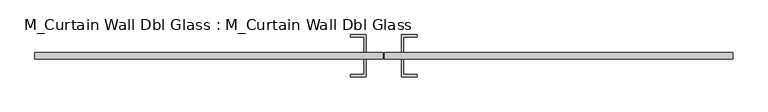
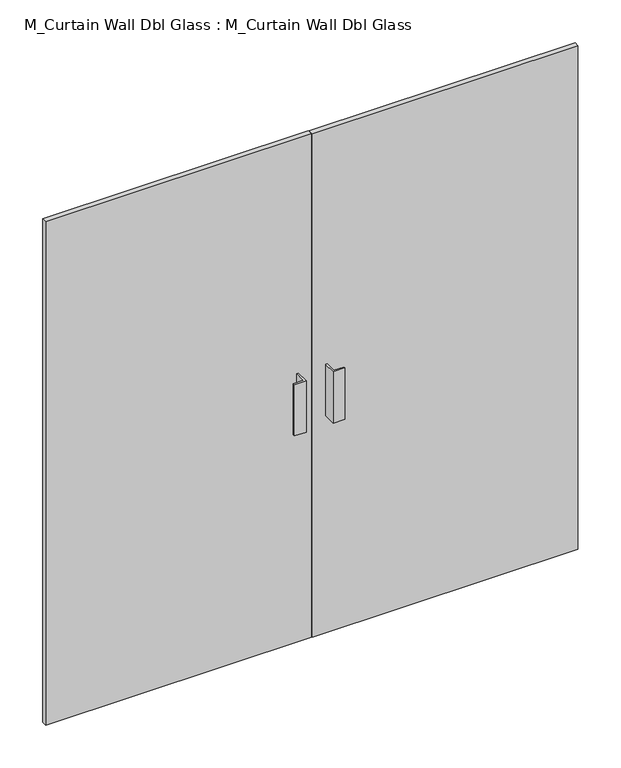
"""IFC4 building model written with IfcOpenShell, lengths in millimetres: plate geometry, M_Curtain Wall Dbl Glass : M_Curtain Wall Dbl Glass."""

from ifc_helpers import new_model, si_unit, frame, origin, origin_with_axes, place, context, project, spatial, polyline, outline, extrude, source, transform, mapped, element, save


def m_curtain_wall_dbl_glass_m_curtain_wall_dbl_glass_8e53cbdd(model_context):
    return source(origin(), model_context, "Body", "SweptSolid", [
        extrude(outline(polyline([(-1.5875, 19.05), (-1.5875, 0.0), (-1000.0, 0.0), (-1000.0, 19.05), (-1.5875, 19.05)])), origin_with_axes(), (0.0, 0.0, 1.0), 2000.0),
        extrude(outline(polyline([(1000.0, 19.05), (1000.0, 0.0), (1.5875, 0.0), (1.5875, 19.05), (1000.0, 19.05)])), origin_with_axes(), (0.0, 0.0, 1.0), 2000.0),
        extrude(outline(polyline([(-50.8, -50.8), (-95.25, -50.8), (-95.25, -44.45), (-57.15, -44.45), (-57.15, 0.0), (-50.8, 0.0), (-50.8, -50.8)])), frame((0.0, 0.0, 863.6), z_axis=(0.0, 0.0, 1.0), x_axis=(1.0, 0.0, 0.0)), (0.0, 0.0, 1.0), 203.2),
        extrude(outline(polyline([(50.8, -50.8), (50.8, 0.0), (57.15, 0.0), (57.15, -44.45), (95.25, -44.45), (95.25, -50.8), (50.8, -50.8)])), frame((0.0, 0.0, 863.6), z_axis=(0.0, 0.0, 1.0), x_axis=(1.0, 0.0, 0.0)), (0.0, 0.0, 1.0), 203.2),
        extrude(outline(polyline([(-50.8, 69.85), (-50.8, 19.05), (-57.15, 19.05), (-57.15, 63.5), (-95.25, 63.5), (-95.25, 69.85), (-50.8, 69.85)])), frame((0.0, 0.0, 863.6), z_axis=(0.0, 0.0, 1.0), x_axis=(1.0, 0.0, 0.0)), (0.0, 0.0, 1.0), 203.2),
        extrude(outline(polyline([(50.8, 69.85), (95.25, 69.85), (95.25, 63.5), (57.15, 63.5), (57.15, 19.05), (50.8, 19.05), (50.8, 69.85)])), frame((0.0, 0.0, 863.6), z_axis=(0.0, 0.0, 1.0), x_axis=(1.0, 0.0, 0.0)), (0.0, 0.0, 1.0), 203.2),
    ])


if __name__ == "__main__":
    model = new_model("IFC4")
    model_context = context("Model", 3, world=origin())
    ifc_project = project(units=[si_unit("LENGTHUNIT", "METRE", prefix="MILLI")], contexts=[model_context])
    site = spatial("IfcSite", under=ifc_project)
    building = spatial("IfcBuilding", under=site)
    placement = place(None, origin())
    m_curtain_wall_dbl_glass_m_curtain_wall_dbl_glass_shape = m_curtain_wall_dbl_glass_m_curtain_wall_dbl_glass_8e53cbdd(model_context)
    element("IfcPlate", 1, ObjectType="M_Curtain Wall Dbl Glass : M_Curtain Wall Dbl Glass", at=placement, inside=building, context=model_context, shape_type="MappedRepresentation", body=[
        mapped(m_curtain_wall_dbl_glass_m_curtain_wall_dbl_glass_shape, transform((0.0, 0.0, 0.0), x_axis=(1.0, 0.0, 0.0), y_axis=(0.0, 1.0, 0.0), z_axis=(0.0, 0.0, 1.0))),
    ])
    save(model, "model.ifc")
